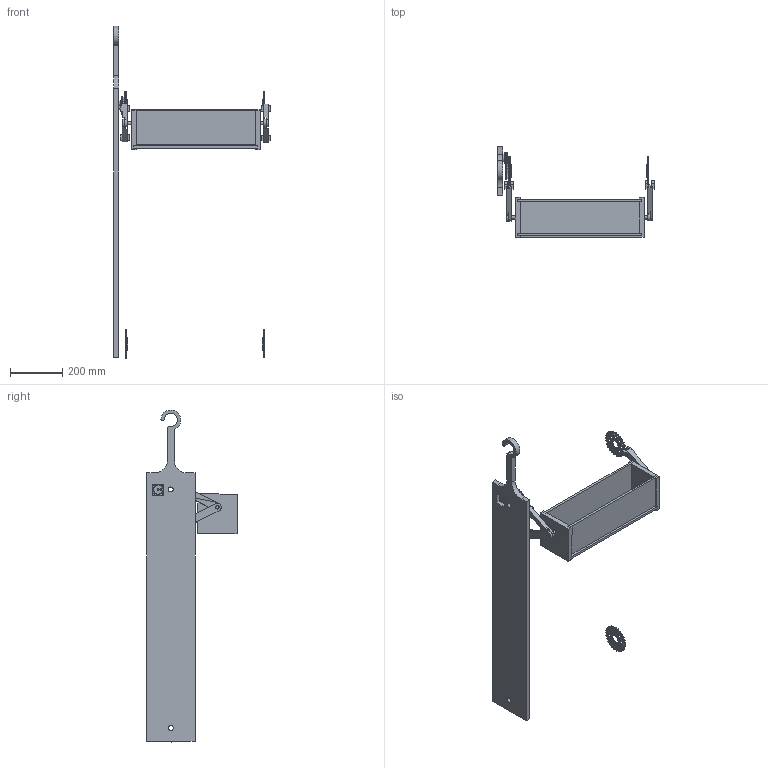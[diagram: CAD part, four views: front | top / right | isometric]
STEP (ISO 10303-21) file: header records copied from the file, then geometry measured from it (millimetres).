
FILE_DESCRIPTION(/* description */ (''),/* implementation_level */ '2;1');
FILE_NAME(/* name */ 'C:/Users/ramar/Desktop/asofij/Overall 2 v5.step',/* time_stamp */ '2021-02-07T11:45:21-06:00',/* author */ (''),/* organization */ (''),/* preprocessor_version */ 'ST-DEVELOPER v18.1',/* originating_system */ 'Autodesk Translation Framework v9.7.1.1290',/* authorisation */ '');
FILE_SCHEMA (('AUTOMOTIVE_DESIGN { 1 0 10303 214 3 1 1 }'));
Products named in the file (18): Overall 2; Sprocket; Sprocket_1; Sprocket_2; Sprocket_3; Sprocket_4; A  Arms; A  Arms_1; Component1; Component2; Component3; Component4; Buckets; GearSprocket; Sprocket_5; Spur Gear (20 teeth); Pinion; Spur Gear (12 teeth)
Assembly tree (24 placements, depth 3):
  Overall 2
    Sprocket
      Sprocket_4
    Sprocket_1
      Sprocket_4
    Sprocket_2
      Sprocket_4
    Sprocket_3
      Sprocket_4
    A  Arms
      Component1
      Component2
      Component3
      Component4
    A  Arms_1
      Component1
      Component2
      Component3
      Component4
    Buckets
    GearSprocket
      Sprocket_5
      Spur Gear (20 teeth)
    Pinion
      Spur Gear (12 teeth)
Bounding box: 600.6 x 347.66 x 1273.02 mm (x, y, z)
Volume: 6949944.7 mm3; surface area: 1194867.4 mm2
Topology: 24 solids, 24 shells, 1086 faces, 3078 edges, 2024 vertices
Faces by surface type: cylinder 628, plane 394, bspline 64
Full cylindrical faces by diameter (mm): 3 x8, 3.5 x14, 5.5 x2, 12.7 x4, 13.97 x4, 15 x8, 17.5 x32, 19.05 x2, 32.5 x5, 36.83 x1, 42 x5, 47 x1, 47.4 x1, 47.5 x4, 90 x5
Entity records: 40823 total; most frequent: CARTESIAN_POINT 22870, ORIENTED_EDGE 3754, DIRECTION 3738, EDGE_CURVE 1877, AXIS2_PLACEMENT_3D 1345, VERTEX_POINT 1243, LINE 1048, VECTOR 1048
